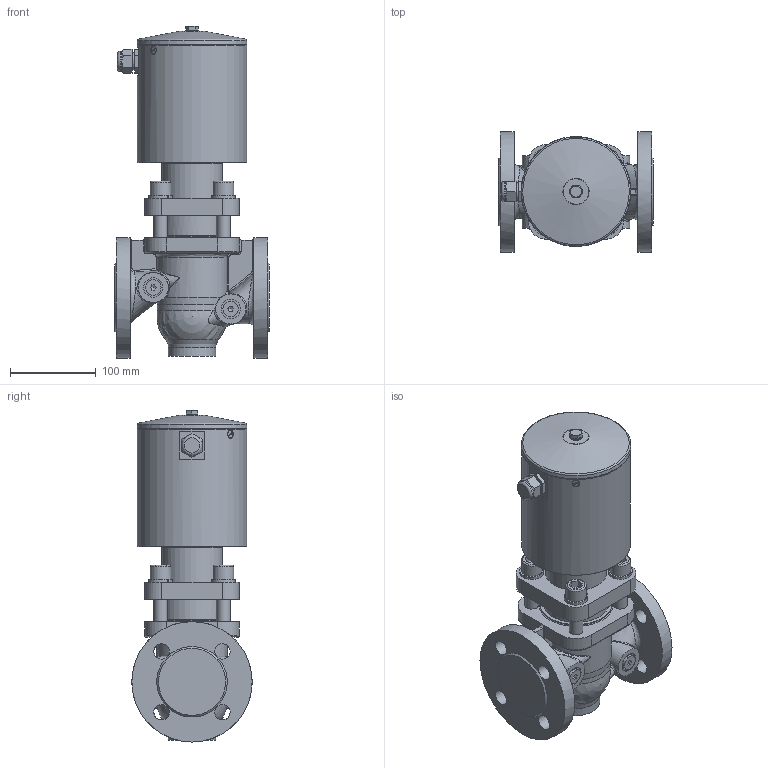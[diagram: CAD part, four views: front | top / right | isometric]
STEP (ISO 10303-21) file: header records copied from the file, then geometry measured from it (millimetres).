
FILE_DESCRIPTION((''),'2;1');
FILE_NAME('G:\CAD-Download\EVSA\10-EVSA\DN 32\10-EVSA 12NH-4.A.02.32.stp','2009-11-12T08:51:28',('hb'),(''),'Autodesk Inventor 2008','Autodesk Inventor 2008','');
FILE_SCHEMA(('AUTOMOTIVE_DESIGN { 1 0 10303 214 1 1 1 1 }'));
Length unit declared in the file: millimetre
Products named in the file (1): 10-EVSA 12NH-4.A.02
Bounding box: 180 x 140 x 386.16 mm (x, y, z)
Volume: 3921687.6 mm3; surface area: 280993.7 mm2
Topology: 1 solids, 1 shells, 337 faces, 855 edges, 539 vertices
Faces by surface type: plane 146, bspline 78, cylinder 72, cone 29, torus 11, sphere 1
Full cylindrical faces by diameter (mm): 11.63 x1, 16 x8, 18 x4, 20 x1, 23.713 x1, 24 x4, 35 x3, 55 x1, 62 x1, 71 x1, 76 x1, 84 x1, 124 x1, 127 x1, 140 x2
Entity records: 21975 total; most frequent: CARTESIAN_POINT 14607, ORIENTED_EDGE 1438, DIRECTION 1328, EDGE_CURVE 719, AXIS2_PLACEMENT_3D 536, VERTEX_POINT 490, EDGE_LOOP 475, FACE_OUTER_BOUND 337
